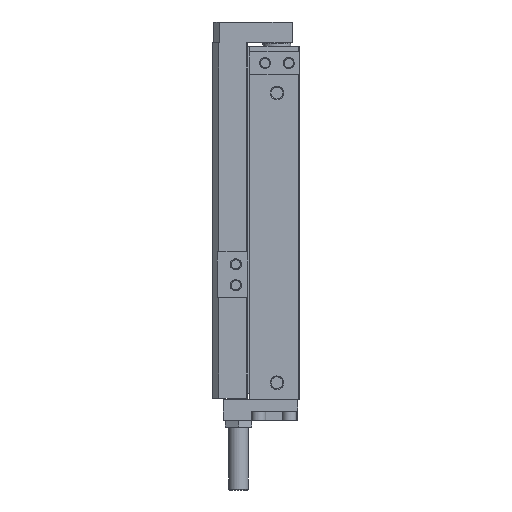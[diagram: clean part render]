
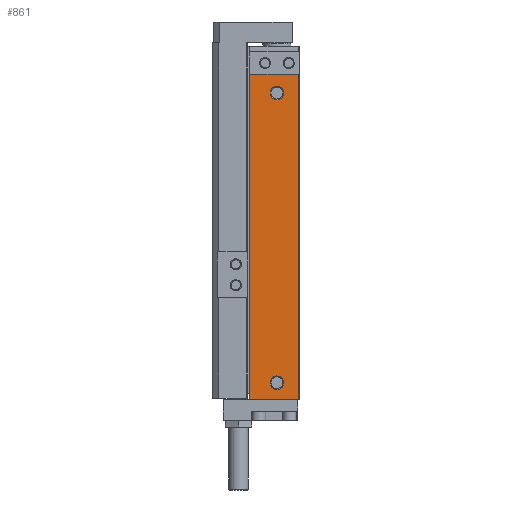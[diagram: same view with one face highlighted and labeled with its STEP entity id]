
A CAD part, left-side view. The second image highlights one B-rep face of the part: STEP entity #861.
In plain terms, the highlighted planar face has unit normal (-1, 0, 0).
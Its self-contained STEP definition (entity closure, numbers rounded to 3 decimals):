
#861 = ADVANCED_FACE( '', ( #2191, #2192, #2193 ), #2194, .T. );
#2191 = FACE_BOUND( '', #4172, .T. );
#2192 = FACE_BOUND( '', #4173, .T. );
#2193 = FACE_OUTER_BOUND( '', #4174, .T. );
#2194 = PLANE( '', #4175 );
#4172 = EDGE_LOOP( '', ( #6632 ) );
#4173 = EDGE_LOOP( '', ( #6633 ) );
#4174 = EDGE_LOOP( '', ( #6634, #6635, #6636, #6637 ) );
#4175 = AXIS2_PLACEMENT_3D( '', #6638, #6639, #6640 );
#6632 = ORIENTED_EDGE( '', *, *, #10985, .T. );
#6633 = ORIENTED_EDGE( '', *, *, #10986, .T. );
#6634 = ORIENTED_EDGE( '', *, *, #10987, .T. );
#6635 = ORIENTED_EDGE( '', *, *, #10988, .F. );
#6636 = ORIENTED_EDGE( '', *, *, #10989, .F. );
#6637 = ORIENTED_EDGE( '', *, *, #10990, .T. );
#6638 = CARTESIAN_POINT( '', ( -43., 35.505, -253.5 ) );
#6639 = DIRECTION( '', ( -1., 0., 0. ) );
#6640 = DIRECTION( '', ( 0., 0., 1. ) );
#10985 = EDGE_CURVE( '', #13147, #13147, #13148, .T. );
#10986 = EDGE_CURVE( '', #13149, #13149, #13150, .T. );
#10987 = EDGE_CURVE( '', #13151, #13152, #13153, .T. );
#10988 = EDGE_CURVE( '', #13154, #13152, #13155, .T. );
#10989 = EDGE_CURVE( '', #13156, #13154, #13157, .T. );
#10990 = EDGE_CURVE( '', #13156, #13151, #13158, .T. );
#13147 = VERTEX_POINT( '', #16116 );
#13148 = CIRCLE( '', #16117, 4.864 );
#13149 = VERTEX_POINT( '', #16118 );
#13150 = CIRCLE( '', #16119, 4.864 );
#13151 = VERTEX_POINT( '', #16120 );
#13152 = VERTEX_POINT( '', #16121 );
#13153 = LINE( '', #16122, #16123 );
#13154 = VERTEX_POINT( '', #16124 );
#13155 = LINE( '', #16125, #16126 );
#13156 = VERTEX_POINT( '', #16127 );
#13157 = LINE( '', #16128, #16129 );
#13158 = LINE( '', #16130, #16131 );
#16116 = CARTESIAN_POINT( '', ( -43., 16., -246.364 ) );
#16117 = AXIS2_PLACEMENT_3D( '', #19127, #19128, #19129 );
#16118 = CARTESIAN_POINT( '', ( -43., 16., -38.364 ) );
#16119 = AXIS2_PLACEMENT_3D( '', #19130, #19131, #19132 );
#16120 = CARTESIAN_POINT( '', ( -43., 0.495, -253.5 ) );
#16121 = CARTESIAN_POINT( '', ( -43., 0.495, -20. ) );
#16122 = CARTESIAN_POINT( '', ( -43., 0.495, -253.5 ) );
#16123 = VECTOR( '', #19133, 1000. );
#16124 = CARTESIAN_POINT( '', ( -43., 35.505, -20. ) );
#16125 = CARTESIAN_POINT( '', ( -43., 36., -20. ) );
#16126 = VECTOR( '', #19134, 1000. );
#16127 = CARTESIAN_POINT( '', ( -43., 35.505, -253.5 ) );
#16128 = CARTESIAN_POINT( '', ( -43., 35.505, -253.5 ) );
#16129 = VECTOR( '', #19135, 1000. );
#16130 = CARTESIAN_POINT( '', ( -43., 35.505, -253.5 ) );
#16131 = VECTOR( '', #19136, 1000. );
#19127 = CARTESIAN_POINT( '', ( -43., 16., -241.5 ) );
#19128 = DIRECTION( '', ( 1., 0., 0. ) );
#19129 = DIRECTION( '', ( 0., 0., -1. ) );
#19130 = CARTESIAN_POINT( '', ( -43., 16., -33.5 ) );
#19131 = DIRECTION( '', ( 1., 0., 0. ) );
#19132 = DIRECTION( '', ( 0., 0., -1. ) );
#19133 = DIRECTION( '', ( 0., 0., 1. ) );
#19134 = DIRECTION( '', ( 0., -1., 0. ) );
#19135 = DIRECTION( '', ( 0., 0., 1. ) );
#19136 = DIRECTION( '', ( 0., -1., 0. ) );
